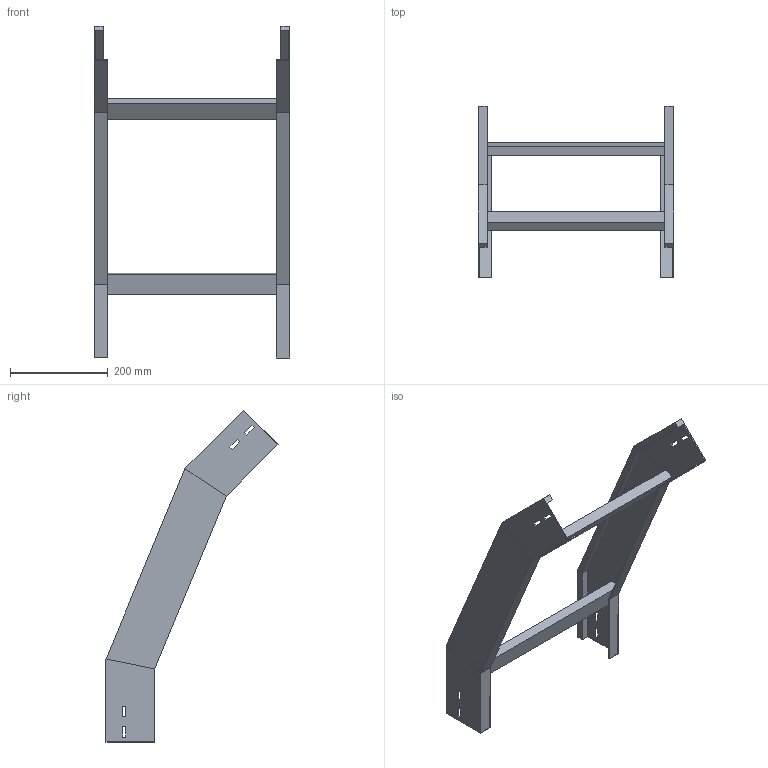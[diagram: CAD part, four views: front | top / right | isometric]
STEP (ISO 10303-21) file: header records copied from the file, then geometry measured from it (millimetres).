
FILE_DESCRIPTION (( 'STEP AP214' ), '1' );
FILE_NAME ('34B5D400.step', '2025-02-21T14:51:01', ( '' ), ( '' ), 'SwSTEP 2.0', 'SolidWorks 2023', '' );
FILE_SCHEMA (( 'AUTOMOTIVE_DESIGN' ));
Length unit declared in the file: millimetre
Products named in the file (3): 34B5D400; TRAVERSINO_400; LONGH.DISCESA_45°_H100_R500
Assembly tree (5 placements, depth 2):
  34B5D400
    LONGH.DISCESA_45°_H100_R500  x2
    TRAVERSINO_400  x3
Bounding box: 400 x 352.63 x 680.62 mm (x, y, z)
Volume: 1608300.3 mm3; surface area: 560613.4 mm2
Topology: 5 solids, 5 shells, 102 faces, 244 edges, 152 vertices
Faces by surface type: plane 102
Entity records: 1480 total; most frequent: CARTESIAN_POINT 244, ORIENTED_EDGE 232, DIRECTION 228, EDGE_CURVE 116, VECTOR 116, LINE 116, VERTEX_POINT 72, AXIS2_PLACEMENT_3D 56
